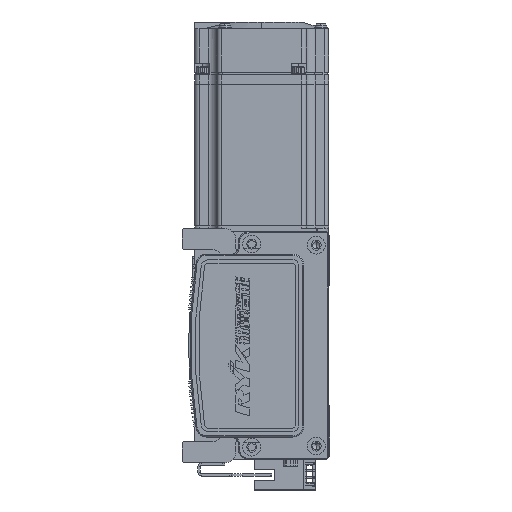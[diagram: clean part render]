
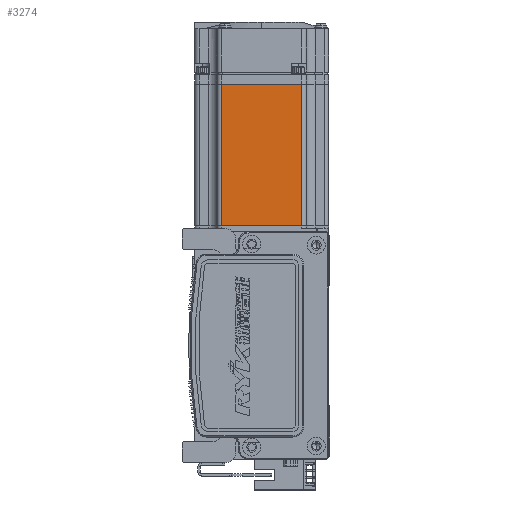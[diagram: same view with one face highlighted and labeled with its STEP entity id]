
A CAD part, left-side view. The second image highlights one B-rep face of the part: STEP entity #3274.
In plain terms, the highlighted planar face has unit normal (-1, 0, 0) as drawn and (0, 0, -1) by its records, which use the part's own axes.
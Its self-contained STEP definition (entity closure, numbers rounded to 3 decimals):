
#3274 = ADVANCED_FACE ( 'NONE', ( #30275 ), #5164, .T. ) ;
#4084 = CARTESIAN_POINT ( 'NONE',  ( -70.95, 18., -30. ) ) ;
#4783 = CARTESIAN_POINT ( 'NONE',  ( -6.5, -18., -30. ) ) ;
#5000 = DIRECTION ( 'NONE',  ( 0., 1., 0. ) ) ;
#5164 = PLANE ( 'NONE',  #20318 ) ;
#6667 = LINE ( 'NONE', #51915, #44968 ) ;
#8446 = VERTEX_POINT ( 'NONE', #4084 ) ;
#9209 = LINE ( 'NONE', #4783, #64152 ) ;
#14491 = CARTESIAN_POINT ( 'NONE',  ( -7.75, -18., -30. ) ) ;
#15552 = CARTESIAN_POINT ( 'NONE',  ( -7.75, 18., -30. ) ) ;
#15720 = DIRECTION ( 'NONE',  ( -1., 0., 0. ) ) ;
#17400 = ORIENTED_EDGE ( 'NONE', *, *, #33762, .T. ) ;
#20318 = AXIS2_PLACEMENT_3D ( 'NONE', #42371, #31915, #32159 ) ;
#21502 = CARTESIAN_POINT ( 'NONE',  ( -70.95, 25., -30. ) ) ;
#23170 = DIRECTION ( 'NONE',  ( 0., -1., 0. ) ) ;
#23694 = VECTOR ( 'NONE', #5000, 1000. ) ;
#24978 = VERTEX_POINT ( 'NONE', #15552 ) ;
#26671 = EDGE_LOOP ( 'NONE', ( #17400, #49983, #50623, #39497 ) ) ;
#30275 = FACE_OUTER_BOUND ( 'NONE', #26671, .T. ) ;
#30337 = DIRECTION ( 'NONE',  ( 1., 0., 0. ) ) ;
#31915 = DIRECTION ( 'NONE',  ( 0., 0., -1. ) ) ;
#32159 = DIRECTION ( 'NONE',  ( -1., 0., 0. ) ) ;
#33762 = EDGE_CURVE ( 'NONE', #24978, #61640, #36879, .T. ) ;
#36879 = LINE ( 'NONE', #38753, #37734 ) ;
#37734 = VECTOR ( 'NONE', #23170, 1000. ) ;
#38753 = CARTESIAN_POINT ( 'NONE',  ( -7.75, 25., -30. ) ) ;
#39497 = ORIENTED_EDGE ( 'NONE', *, *, #58142, .T. ) ;
#42371 = CARTESIAN_POINT ( 'NONE',  ( -6.5, 25., -30. ) ) ;
#44968 = VECTOR ( 'NONE', #30337, 1000. ) ;
#48615 = LINE ( 'NONE', #21502, #23694 ) ;
#49983 = ORIENTED_EDGE ( 'NONE', *, *, #57851, .T. ) ;
#50623 = ORIENTED_EDGE ( 'NONE', *, *, #50797, .T. ) ;
#50797 = EDGE_CURVE ( 'NONE', #64956, #8446, #48615, .T. ) ;
#51915 = CARTESIAN_POINT ( 'NONE',  ( -6.5, 18., -30. ) ) ;
#54532 = CARTESIAN_POINT ( 'NONE',  ( -70.95, -18., -30. ) ) ;
#57851 = EDGE_CURVE ( 'NONE', #61640, #64956, #9209, .T. ) ;
#58142 = EDGE_CURVE ( 'NONE', #8446, #24978, #6667, .T. ) ;
#61640 = VERTEX_POINT ( 'NONE', #14491 ) ;
#64152 = VECTOR ( 'NONE', #15720, 1000. ) ;
#64956 = VERTEX_POINT ( 'NONE', #54532 ) ;
